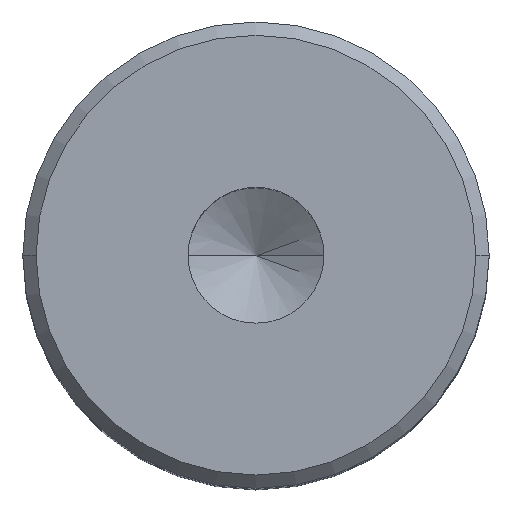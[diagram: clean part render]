
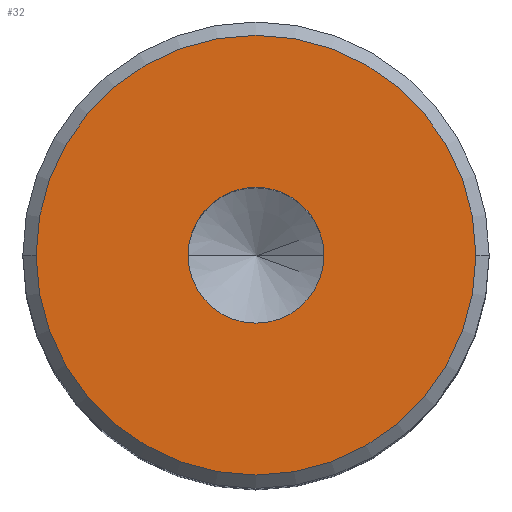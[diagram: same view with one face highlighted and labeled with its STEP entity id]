
A CAD part, top view. The second image highlights one B-rep face of the part: STEP entity #32.
In plain terms, the highlighted planar face has unit normal (0, 0, 1).
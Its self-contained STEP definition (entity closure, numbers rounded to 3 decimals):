
#22 = AXIS2_PLACEMENT_3D ( 'NONE', #698, #225, #230 ) ;
#32 = ADVANCED_FACE ( 'NONE', ( #631, #898 ), #782, .T. ) ;
#51 = EDGE_CURVE ( 'NONE', #969, #91, #551, .T. ) ;
#64 = CARTESIAN_POINT ( 'NONE',  ( -5.1, 0., 35. ) ) ;
#72 = CIRCLE ( 'NONE', #465, 16.5 ) ;
#91 = VERTEX_POINT ( 'NONE', #412 ) ;
#109 = EDGE_LOOP ( 'NONE', ( #885, #287 ) ) ;
#180 = DIRECTION ( 'NONE',  ( 0., 0., -1. ) ) ;
#217 = ORIENTED_EDGE ( 'NONE', *, *, #51, .F. ) ;
#223 = AXIS2_PLACEMENT_3D ( 'NONE', #619, #401, #786 ) ;
#225 = DIRECTION ( 'NONE',  ( 0., 0., 1. ) ) ;
#230 = DIRECTION ( 'NONE',  ( 1., 0., 0. ) ) ;
#245 = DIRECTION ( 'NONE',  ( 0., 0., 1. ) ) ;
#269 = AXIS2_PLACEMENT_3D ( 'NONE', #971, #594, #362 ) ;
#287 = ORIENTED_EDGE ( 'NONE', *, *, #528, .F. ) ;
#309 = EDGE_CURVE ( 'NONE', #692, #317, #72, .T. ) ;
#312 = CIRCLE ( 'NONE', #269, 5.1 ) ;
#317 = VERTEX_POINT ( 'NONE', #1000 ) ;
#350 = CARTESIAN_POINT ( 'NONE',  ( 0., 0., 35. ) ) ;
#362 = DIRECTION ( 'NONE',  ( 1., 0., 0. ) ) ;
#401 = DIRECTION ( 'NONE',  ( 0., 0., -1. ) ) ;
#412 = CARTESIAN_POINT ( 'NONE',  ( 5.1, 0., 35. ) ) ;
#465 = AXIS2_PLACEMENT_3D ( 'NONE', #350, #180, #762 ) ;
#487 = DIRECTION ( 'NONE',  ( 1., 0., 0. ) ) ;
#494 = EDGE_LOOP ( 'NONE', ( #789, #217 ) ) ;
#528 = EDGE_CURVE ( 'NONE', #317, #692, #946, .T. ) ;
#551 = CIRCLE ( 'NONE', #824, 5.1 ) ;
#594 = DIRECTION ( 'NONE',  ( 0., 0., 1. ) ) ;
#619 = CARTESIAN_POINT ( 'NONE',  ( 0., 0., 35. ) ) ;
#631 = FACE_BOUND ( 'NONE', #494, .T. ) ;
#692 = VERTEX_POINT ( 'NONE', #807 ) ;
#698 = CARTESIAN_POINT ( 'NONE',  ( -21.45, -34.295, 35. ) ) ;
#762 = DIRECTION ( 'NONE',  ( -1., 0., 0. ) ) ;
#782 = PLANE ( 'NONE',  #22 ) ;
#786 = DIRECTION ( 'NONE',  ( -1., 0., 0. ) ) ;
#789 = ORIENTED_EDGE ( 'NONE', *, *, #791, .F. ) ;
#791 = EDGE_CURVE ( 'NONE', #91, #969, #312, .T. ) ;
#797 = CARTESIAN_POINT ( 'NONE',  ( 0., 0., 35. ) ) ;
#807 = CARTESIAN_POINT ( 'NONE',  ( 16.5, 0., 35. ) ) ;
#824 = AXIS2_PLACEMENT_3D ( 'NONE', #797, #245, #487 ) ;
#885 = ORIENTED_EDGE ( 'NONE', *, *, #309, .F. ) ;
#898 = FACE_OUTER_BOUND ( 'NONE', #109, .T. ) ;
#946 = CIRCLE ( 'NONE', #223, 16.5 ) ;
#969 = VERTEX_POINT ( 'NONE', #64 ) ;
#971 = CARTESIAN_POINT ( 'NONE',  ( 0., 0., 35. ) ) ;
#1000 = CARTESIAN_POINT ( 'NONE',  ( -16.5, 0., 35. ) ) ;
